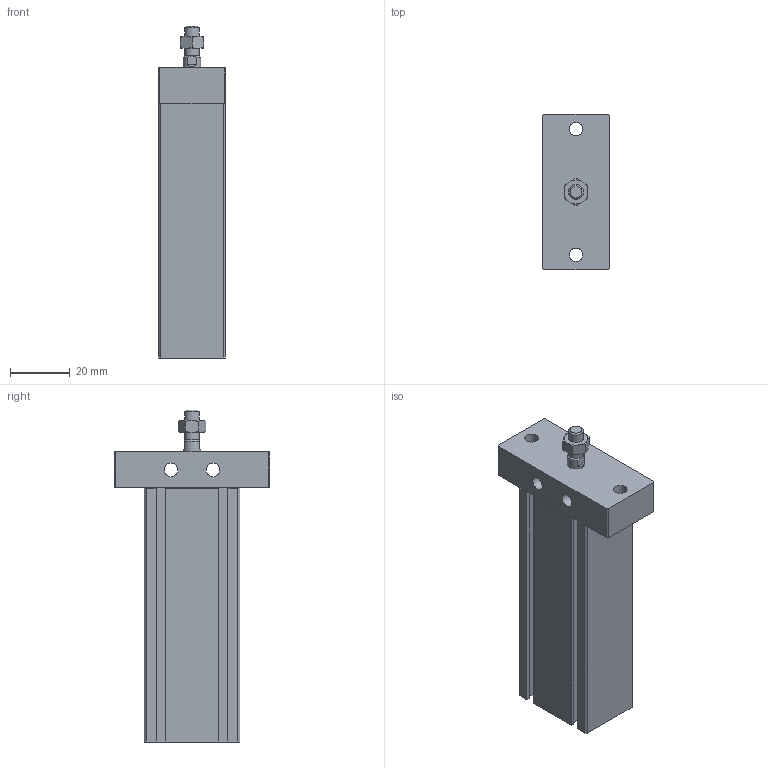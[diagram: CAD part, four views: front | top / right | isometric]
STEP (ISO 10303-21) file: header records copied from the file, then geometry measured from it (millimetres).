
FILE_DESCRIPTION((''),'2;1');
FILE_NAME('J:\3D電子目錄\氣缸\ND\ND\ND16-FB\ND16x60-FB.stp','2008-03-12T17:06:53',('66-2f-008'),(''),'Autodesk Inventor 11','Autodesk Inventor 11','');
FILE_SCHEMA(('AUTOMOTIVE_DESIGN { 1 0 10303 214 1 1 1 1 }'));
Length unit declared in the file: millimetre
Products named in the file (1): ND16-FB
Bounding box: 22.4 x 52 x 111 mm (x, y, z)
Volume: 65483 mm3; surface area: 19673.5 mm2
Topology: 2 solids, 2 shells, 130 faces, 310 edges, 195 vertices
Faces by surface type: plane 83, cone 22, bspline 14, cylinder 10, torus 1
Full cylindrical faces by diameter (mm): 1.5 x2, 4.5 x2, 5 x2, 6 x1, 10 x1, 18 x1, 19 x1
Entity records: 3636 total; most frequent: CARTESIAN_POINT 833, ORIENTED_EDGE 550, DIRECTION 542, EDGE_CURVE 275, VERTEX_POINT 189, VECTOR 186, LINE 186, AXIS2_PLACEMENT_3D 178
